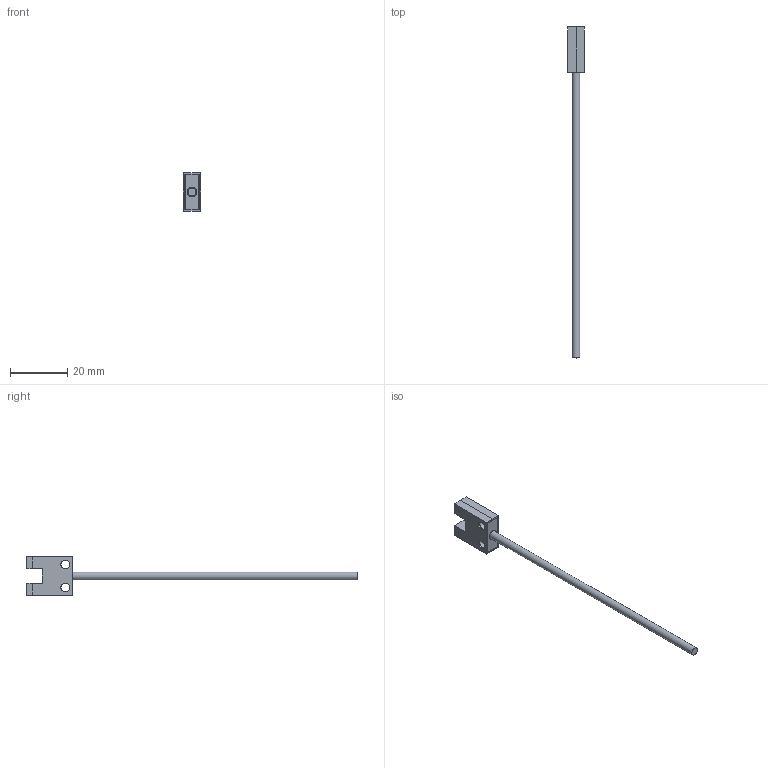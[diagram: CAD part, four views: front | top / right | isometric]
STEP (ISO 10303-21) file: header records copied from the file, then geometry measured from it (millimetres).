
FILE_DESCRIPTION(/* description */ (''),/* implementation_level */ '2;1');
FILE_NAME(/* name */ 'FC-SPV201Z-CP',/* time_stamp */ '2022-03-17T13:57:43+08:00',/* author */ (''),/* organization */ (''),/* preprocessor_version */ 'ST-DEVELOPER v9',/* originating_system */ 'UGS - NX 4.0',/* authorisation */ '');
FILE_SCHEMA (('CONFIG_CONTROL_DESIGN'));
Length unit declared in the file: millimetre
Products named in the file (1): FC-SPV201Z-CP
Bounding box: 6.03 x 116.28 x 13.57 mm (x, y, z)
Volume: 1650.7 mm3; surface area: 2453 mm2
Topology: 1 solids, 1 shells, 102 faces, 279 edges, 186 vertices
Faces by surface type: plane 90, cylinder 11, torus 1
Full cylindrical faces by diameter (mm): 2.8 x1, 3 x1, 3.1 x4
Entity records: 3238 total; most frequent: CARTESIAN_POINT 571, ORIENTED_EDGE 534, DIRECTION 490, EDGE_CURVE 267, LINE 236, VECTOR 236, VERTEX_POINT 182, EDGE_LOOP 135
